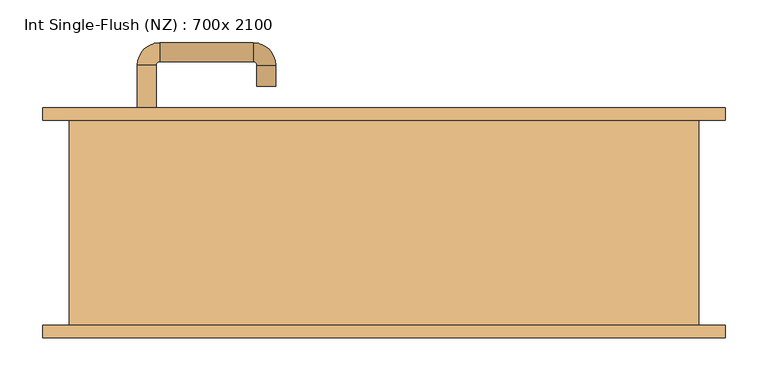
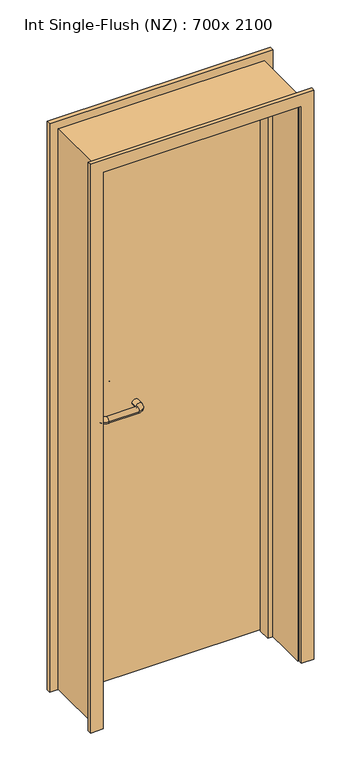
"""IFC4 building model written with IfcOpenShell, lengths in millimetres: door geometry, Int Single-Flush (NZ) : 700x 2100."""

from ifc_helpers import new_model, si_unit, point, frame, frame_2d, origin, place, context, project, spatial, polyline, circle_curve, ellipse_curve, trimmed, segment, composite_curve, outline, extrude, faceted_brep, source, transform, mapped, element, save
from ifc_brep_helpers import plane_surface, cylinder_surface, revolved_surface, advanced_brep


def int_single_flush_nz_700x_2100_3f4e598a(model_context):
    return source(origin(), model_context, "Body", "SolidModel", [
        extrude(outline(polyline([(2119.0, -444.0), (0.0, -444.0), (0.0, -425.0), (2100.0, -425.0), (2100.0, 275.0), (0.0, 275.0), (0.0, 294.0), (2119.0, 294.0), (2119.0, -444.0)])), frame((0.0, -120.0, 0.0), z_axis=(0.0, 1.0, 0.0), x_axis=(0.0, 0.0, 1.0)), (0.0, 0.0, 1.0), 240.0),
        faceted_brep([(-425.0, 79.0, 0.0), (-406.6719264, 79.0, 0.0), (-406.6719264, 34.0, 0.0), (-425.0, 34.0, 0.0), (-425.0, 79.0, 2100.0), (-406.6719264, 79.0, 2081.6719264), (-406.6719264, 34.0, 2081.6719264), (-425.0, 34.0, 2100.0), (275.0, 79.0, 0.0), (275.0, 34.0, 0.0), (256.6719264, 34.0, 0.0), (256.6719264, 79.0, 0.0), (275.0, 79.0, 2100.0), (275.0, 34.0, 2100.0), (256.6719264, 34.0, 2081.6719264), (256.6719264, 79.0, 2081.6719264)], [[[0, 1, 2, 3]], [[1, 0, 4, 5]], [[2, 1, 5, 6]], [[3, 2, 6, 7]], [[0, 3, 7, 4]], [[8, 9, 10, 11]], [[12, 13, 9, 8]], [[13, 14, 10, 9]], [[14, 15, 11, 10]], [[15, 12, 8, 11]], [[5, 4, 12, 15]], [[6, 5, 15, 14]], [[7, 6, 14, 13]], [[4, 7, 13, 12]]]),
        extrude(outline(polyline([(2150.0, 325.0), (2150.0, -475.0), (0.0, -475.0), (0.0, -430.0), (2105.0, -430.0), (2105.0, 280.0), (0.0, 280.0), (0.0, 325.0), (2150.0, 325.0)])), frame((0.0, 120.0, 0.0), z_axis=(0.0, 1.0, 0.0), x_axis=(0.0, 0.0, 1.0)), (0.0, 0.0, 1.0), 15.0),
        extrude(outline(polyline([(2150.0, -475.0), (0.0, -475.0), (0.0, -430.0), (2105.0, -430.0), (2105.0, 280.0), (0.0, 280.0), (0.0, 325.0), (2150.0, 325.0), (2150.0, -475.0)])), frame((0.0, -135.0, 0.0), z_axis=(0.0, 1.0, 0.0), x_axis=(0.0, 0.0, 1.0)), (0.0, 0.0, 1.0), 15.0),
        advanced_brep(
        [(-364.0, 72.0160352, 1053.0), (-342.0, 72.0160352, 1053.0), (-364.0, 17.0160352, 1053.0), (-342.0, 17.0160352, 1053.0), (-338.0, 13.0160352, 1053.0), (-338.0, -8.9839648, 1053.0), (-228.0, -8.9839648, 1053.0), (-228.0, 13.0160352, 1053.0), (-224.0, 17.0160352, 1053.0), (-202.0, 17.0160352, 1053.0), (-202.0, 42.0160352, 1053.0), (-224.0, 42.0160352, 1053.0)],
        [
            (0, 1, circle_curve(frame((-353.0, 72.0160352, 1053.0), z_axis=(0.0, 1.0, 0.0), x_axis=(1.0, 0.0, 0.0)), 11.0)),
            (1, 0, circle_curve(frame((-353.0, 72.0160352, 1053.0), z_axis=(0.0, 1.0, 0.0), x_axis=(1.0, 0.0, 0.0)), 11.0)),
            (0, 2),
            (2, 3, circle_curve(frame((-353.0, 17.0160352, 1053.0), z_axis=(0.0, 1.0, 0.0), x_axis=(1.0, 0.0, 0.0)), 11.0)),
            (3, 1),
            (3, 2, circle_curve(frame((-353.0, 17.0160352, 1053.0), z_axis=(0.0, 1.0, 0.0), x_axis=(1.0, 0.0, 0.0)), 11.0)),
            (4, 3, circle_curve(frame((-338.0, 17.0160352, 1053.0), z_axis=(0.0, 0.0, -1.0), x_axis=(-1.0, 0.0, 0.0)), 4.0)),
            (2, 5, circle_curve(frame((-338.0, 17.0160352, 1053.0), z_axis=(0.0, 0.0, 1.0), x_axis=(-1.0, 0.0, 0.0)), 26.0)),
            (5, 4, circle_curve(frame((-338.0, 2.0160352, 1053.0), z_axis=(-1.0, 0.0, 0.0), x_axis=(0.0, 1.0, 0.0)), 11.0)),
            (4, 5, circle_curve(frame((-338.0, 2.0160352, 1053.0), z_axis=(-1.0, 0.0, 0.0), x_axis=(0.0, 1.0, 0.0)), 11.0)),
            (5, 6),
            (6, 7, circle_curve(frame((-228.0, 2.0160352, 1053.0), z_axis=(-1.0, 0.0, 0.0), x_axis=(0.0, 1.0, 0.0)), 11.0)),
            (7, 4),
            (7, 6, circle_curve(frame((-228.0, 2.0160352, 1053.0), z_axis=(-1.0, 0.0, 0.0), x_axis=(0.0, 1.0, 0.0)), 11.0)),
            (8, 7, circle_curve(frame((-228.0, 17.0160352, 1053.0), z_axis=(0.0, 0.0, -1.0), x_axis=(0.0, -1.0, 0.0)), 4.0)),
            (6, 9, circle_curve(frame((-228.0, 17.0160352, 1053.0), z_axis=(0.0, 0.0, 1.0), x_axis=(0.0, -1.0, 0.0)), 26.0)),
            (9, 8, circle_curve(frame((-213.0, 17.0160352, 1053.0), z_axis=(0.0, -1.0, 0.0), x_axis=(-1.0, 0.0, 0.0)), 11.0)),
            (8, 9, circle_curve(frame((-213.0, 17.0160352, 1053.0), z_axis=(0.0, -1.0, 0.0), x_axis=(-1.0, 0.0, 0.0)), 11.0)),
            (10, 11, circle_curve(frame((-213.0, 42.0160352, 1053.0), z_axis=(0.0, 1.0, 0.0), x_axis=(-1.0, 0.0, 0.0)), 11.0)),
            (11, 10, circle_curve(frame((-213.0, 42.0160352, 1053.0), z_axis=(0.0, 1.0, 0.0), x_axis=(-1.0, 0.0, 0.0)), 11.0)),
            (9, 10),
            (11, 8),
        ],
        [
            plane_surface(frame((-364.0, 72.0160352, 1053.0), z_axis=(0.0, 1.0, 0.0), x_axis=(0.0, 0.0, -1.0))),
            cylinder_surface(frame((-353.0, 72.0160352, 1053.0), z_axis=(0.0, 1.0, 0.0), x_axis=(1.0, 0.0, 0.0)), 11.0),
            revolved_surface(trimmed(ellipse_curve(frame((-353.0, 17.0160352, 1053.0), z_axis=(0.0, 1.0, 0.0), x_axis=(1.0, 0.0, 0.0)), 11.0, 11.0), [point((-364.0, 17.0160352, 1053.0))], [point((-342.0, 17.0160352, 1053.0))], True, "CARTESIAN"), (-338.0, 17.0160352, 1053.0), (0.0, 0.0, 1.0)),
            revolved_surface(trimmed(ellipse_curve(frame((-353.0, 17.0160352, 1053.0), z_axis=(0.0, 1.0, 0.0), x_axis=(1.0, 0.0, 0.0)), 11.0, 11.0), [point((-342.0, 17.0160352, 1053.0))], [point((-364.0, 17.0160352, 1053.0))], True, "CARTESIAN"), (-338.0, 17.0160352, 1053.0), (0.0, 0.0, 1.0)),
            cylinder_surface(frame((-338.0, 2.0160352, 1053.0), z_axis=(-1.0, 0.0, 0.0), x_axis=(0.0, 1.0, 0.0)), 11.0),
            revolved_surface(trimmed(ellipse_curve(frame((-228.0, 2.0160352, 1053.0), z_axis=(-1.0, 0.0, 0.0), x_axis=(0.0, 1.0, 0.0)), 11.0, 11.0), [point((-228.0, -8.9839648, 1053.0))], [point((-228.0, 13.0160352, 1053.0))], True, "CARTESIAN"), (-228.0, 17.0160352, 1053.0), (0.0, 0.0, 1.0)),
            revolved_surface(trimmed(ellipse_curve(frame((-228.0, 2.0160352, 1053.0), z_axis=(-1.0, 0.0, 0.0), x_axis=(0.0, 1.0, 0.0)), 11.0, 11.0), [point((-228.0, 13.0160352, 1053.0))], [point((-228.0, -8.9839648, 1053.0))], True, "CARTESIAN"), (-228.0, 17.0160352, 1053.0), (0.0, 0.0, 1.0)),
            plane_surface(frame((-224.0, 42.0160352, 1053.0), z_axis=(0.0, 1.0, 0.0), x_axis=(0.0, 0.0, 1.0))),
            cylinder_surface(frame((-213.0, 17.0160352, 1053.0), z_axis=(0.0, -1.0, 0.0), x_axis=(-1.0, 0.0, 0.0)), 11.0),
        ],
        [
            (0, [[1, 2]]),
            (1, [[-1, 3, 4, 5]]),
            (1, [[-2, -5, 6, -3]]),
            (2, [[7, -4, 8, 9]]),
            (3, [[-8, -6, -7, 10]]),
            (4, [[-9, 11, 12, 13]]),
            (4, [[-10, -13, 14, -11]]),
            (5, [[15, -12, 16, 17]]),
            (6, [[-16, -14, -15, 18]]),
            (7, [[19, 20]]),
            (8, [[-17, 21, -20, 22]]),
            (8, [[-18, -22, -19, -21]]),
        ],
    ),
        extrude(outline(composite_curve([segment(trimmed(circle_curve(frame_2d((1053.0, -353.0)), 25.0), [point((1053.0, -378.0))], [point((1053.0, -328.0))], False, "CARTESIAN"), True, "CONTINUOUS"), segment(trimmed(circle_curve(frame_2d((1053.0, -353.0)), 25.0), [point((1053.0, -328.0))], [point((1053.0, -378.0))], False, "CARTESIAN"), True, "CONTINUOUS")], self_intersect=False)), frame((0.0, 72.0160352, 0.0), z_axis=(0.0, 1.0, 0.0), x_axis=(0.0, 0.0, 1.0)), (0.0, 0.0, 1.0), 9.9839648),
        advanced_brep(
        [(-342.0, 130.0, 1053.0), (-364.0, 130.0, 1053.0), (-342.0, 185.0, 1053.0), (-364.0, 185.0, 1053.0), (-338.0, 211.0, 1053.0), (-338.0, 189.0, 1053.0), (-228.0, 189.0, 1053.0), (-228.0, 211.0, 1053.0), (-202.0, 185.0, 1053.0), (-224.0, 185.0, 1053.0), (-224.0, 160.0, 1053.0), (-202.0, 160.0, 1053.0)],
        [
            (0, 1, circle_curve(frame((-353.0, 130.0, 1053.0), z_axis=(0.0, -1.0, 0.0), x_axis=(-1.0, 0.0, 0.0)), 11.0)),
            (1, 0, circle_curve(frame((-353.0, 130.0, 1053.0), z_axis=(0.0, -1.0, 0.0), x_axis=(-1.0, 0.0, 0.0)), 11.0)),
            (0, 2),
            (2, 3, circle_curve(frame((-353.0, 185.0, 1053.0), z_axis=(0.0, -1.0, 0.0), x_axis=(-1.0, 0.0, 0.0)), 11.0)),
            (3, 1),
            (3, 2, circle_curve(frame((-353.0, 185.0, 1053.0), z_axis=(0.0, -1.0, 0.0), x_axis=(-1.0, 0.0, 0.0)), 11.0)),
            (4, 3, circle_curve(frame((-338.0, 185.0, 1053.0), z_axis=(0.0, 0.0, 1.0), x_axis=(-1.0, 0.0, 0.0)), 26.0)),
            (2, 5, circle_curve(frame((-338.0, 185.0, 1053.0), z_axis=(0.0, 0.0, -1.0), x_axis=(-1.0, 0.0, 0.0)), 4.0)),
            (5, 4, circle_curve(frame((-338.0, 200.0, 1053.0), z_axis=(-1.0, 0.0, 0.0), x_axis=(0.0, 1.0, 0.0)), 11.0)),
            (4, 5, circle_curve(frame((-338.0, 200.0, 1053.0), z_axis=(-1.0, 0.0, 0.0), x_axis=(0.0, 1.0, 0.0)), 11.0)),
            (5, 6),
            (6, 7, circle_curve(frame((-228.0, 200.0, 1053.0), z_axis=(-1.0, 0.0, 0.0), x_axis=(0.0, 1.0, 0.0)), 11.0)),
            (7, 4),
            (7, 6, circle_curve(frame((-228.0, 200.0, 1053.0), z_axis=(-1.0, 0.0, 0.0), x_axis=(0.0, 1.0, 0.0)), 11.0)),
            (8, 7, circle_curve(frame((-228.0, 185.0, 1053.0), z_axis=(0.0, 0.0, 1.0), x_axis=(0.0, 1.0, 0.0)), 26.0)),
            (6, 9, circle_curve(frame((-228.0, 185.0, 1053.0), z_axis=(0.0, 0.0, -1.0), x_axis=(0.0, 1.0, 0.0)), 4.0)),
            (9, 8, circle_curve(frame((-213.0, 185.0, 1053.0), z_axis=(0.0, 1.0, 0.0), x_axis=(1.0, 0.0, 0.0)), 11.0)),
            (8, 9, circle_curve(frame((-213.0, 185.0, 1053.0), z_axis=(0.0, 1.0, 0.0), x_axis=(1.0, 0.0, 0.0)), 11.0)),
            (10, 11, circle_curve(frame((-213.0, 160.0, 1053.0), z_axis=(0.0, -1.0, 0.0), x_axis=(1.0, 0.0, 0.0)), 11.0)),
            (11, 10, circle_curve(frame((-213.0, 160.0, 1053.0), z_axis=(0.0, -1.0, 0.0), x_axis=(1.0, 0.0, 0.0)), 11.0)),
            (9, 10),
            (11, 8),
        ],
        [
            plane_surface(frame((-364.0, 130.0, 1053.0), z_axis=(0.0, -1.0, 0.0), x_axis=(0.0, 0.0, 1.0))),
            cylinder_surface(frame((-353.0, 130.0, 1053.0), z_axis=(0.0, -1.0, 0.0), x_axis=(-1.0, 0.0, 0.0)), 11.0),
            revolved_surface(trimmed(ellipse_curve(frame((-353.0, 185.0, 1053.0), z_axis=(0.0, -1.0, 0.0), x_axis=(-1.0, 0.0, 0.0)), 11.0, 11.0), [point((-342.0, 185.0, 1053.0))], [point((-364.0, 185.0, 1053.0))], True, "CARTESIAN"), (-338.0, 185.0, 1053.0), (0.0, 0.0, -1.0)),
            revolved_surface(trimmed(ellipse_curve(frame((-353.0, 185.0, 1053.0), z_axis=(0.0, -1.0, 0.0), x_axis=(-1.0, 0.0, 0.0)), 11.0, 11.0), [point((-364.0, 185.0, 1053.0))], [point((-342.0, 185.0, 1053.0))], True, "CARTESIAN"), (-338.0, 185.0, 1053.0), (0.0, 0.0, -1.0)),
            cylinder_surface(frame((-338.0, 200.0, 1053.0), z_axis=(-1.0, 0.0, 0.0), x_axis=(0.0, 1.0, 0.0)), 11.0),
            revolved_surface(trimmed(ellipse_curve(frame((-228.0, 200.0, 1053.0), z_axis=(-1.0, 0.0, 0.0), x_axis=(0.0, 1.0, 0.0)), 11.0, 11.0), [point((-228.0, 189.0, 1053.0))], [point((-228.0, 211.0, 1053.0))], True, "CARTESIAN"), (-228.0, 185.0, 1053.0), (0.0, 0.0, -1.0)),
            revolved_surface(trimmed(ellipse_curve(frame((-228.0, 200.0, 1053.0), z_axis=(-1.0, 0.0, 0.0), x_axis=(0.0, 1.0, 0.0)), 11.0, 11.0), [point((-228.0, 211.0, 1053.0))], [point((-228.0, 189.0, 1053.0))], True, "CARTESIAN"), (-228.0, 185.0, 1053.0), (0.0, 0.0, -1.0)),
            plane_surface(frame((-224.0, 160.0, 1053.0), z_axis=(0.0, -1.0, 0.0), x_axis=(0.0, 0.0, -1.0))),
            cylinder_surface(frame((-213.0, 185.0, 1053.0), z_axis=(0.0, 1.0, 0.0), x_axis=(1.0, 0.0, 0.0)), 11.0),
        ],
        [
            (0, [[1, 2]]),
            (1, [[-1, 3, 4, 5]]),
            (1, [[-2, -5, 6, -3]]),
            (2, [[7, -4, 8, 9]]),
            (3, [[-8, -6, -7, 10]]),
            (4, [[-9, 11, 12, 13]]),
            (4, [[-10, -13, 14, -11]]),
            (5, [[15, -12, 16, 17]]),
            (6, [[-16, -14, -15, 18]]),
            (7, [[19, 20]]),
            (8, [[-17, 21, -20, 22]]),
            (8, [[-18, -22, -19, -21]]),
        ],
    ),
        extrude(outline(composite_curve([segment(trimmed(circle_curve(frame_2d((1053.0, -353.0)), 25.0), [point((1053.0, -328.0))], [point((1053.0, -378.0))], False, "CARTESIAN"), True, "CONTINUOUS"), segment(trimmed(circle_curve(frame_2d((1053.0, -353.0)), 25.0), [point((1053.0, -378.0))], [point((1053.0, -328.0))], False, "CARTESIAN"), True, "CONTINUOUS")], self_intersect=False)), frame((0.0, 120.0, 0.0), z_axis=(0.0, 1.0, 0.0), x_axis=(0.0, 0.0, 1.0)), (0.0, 0.0, 1.0), 10.0),
        extrude(outline(polyline([(272.0, 82.0), (-428.0, 82.0), (-428.0, 120.0), (272.0, 120.0), (272.0, 82.0)])), frame((0.0, 0.0, 3.0), z_axis=(0.0, 0.0, 1.0), x_axis=(1.0, 0.0, 0.0)), (0.0, 0.0, 1.0), 2094.0),
    ])


if __name__ == "__main__":
    model = new_model("IFC4")
    model_context = context("Model", 3, world=origin())
    ifc_project = project(units=[si_unit("LENGTHUNIT", "METRE", prefix="MILLI")], contexts=[model_context])
    site = spatial("IfcSite", under=ifc_project)
    building = spatial("IfcBuilding", under=site)
    placement = place(None, origin())
    int_single_flush_nz_700x_2100_shape = int_single_flush_nz_700x_2100_3f4e598a(model_context)
    element("IfcDoor", 1, ObjectType="Int Single-Flush (NZ) : 700x 2100", at=placement, inside=building, context=model_context, shape_type="MappedRepresentation", body=[
        mapped(int_single_flush_nz_700x_2100_shape, transform((0.0, 0.0, 0.0), x_axis=(1.0, 0.0, 0.0), y_axis=(0.0, 1.0, 0.0), z_axis=(0.0, 0.0, 1.0))),
    ])
    save(model, "model.ifc")
